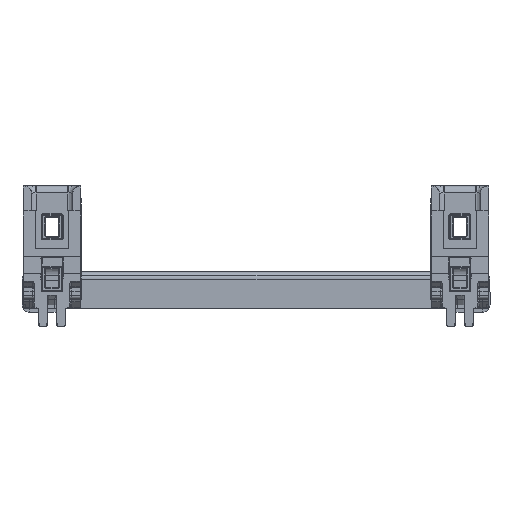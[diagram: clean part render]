
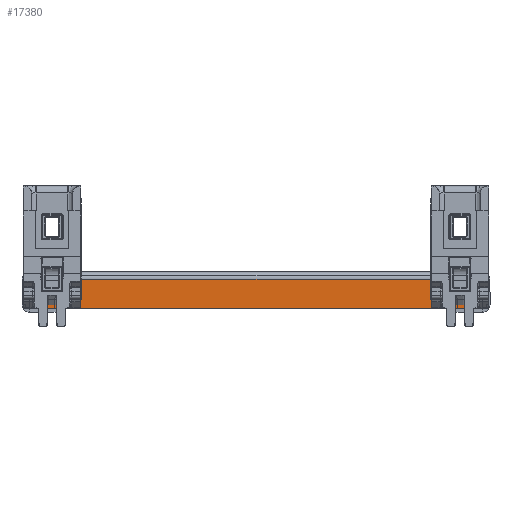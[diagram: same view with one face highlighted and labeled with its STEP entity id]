
A CAD part, front view. The second image highlights one B-rep face of the part: STEP entity #17380.
In plain terms, the highlighted planar face has unit normal (0, -1, 0) as drawn and (1, 0, 0) by its records, which use the part's own axes.
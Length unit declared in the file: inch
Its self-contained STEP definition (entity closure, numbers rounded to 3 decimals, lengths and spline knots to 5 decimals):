
#245 = LINE ( 'NONE', #16779, #14608 ) ;
#353 = CARTESIAN_POINT ( 'NONE',  ( 33.58649, 1.11, -0.11 ) ) ;
#374 = VERTEX_POINT ( 'NONE', #3196 ) ;
#569 = CARTESIAN_POINT ( 'NONE',  ( 33.58649, 1.11, -0.403 ) ) ;
#648 = LINE ( 'NONE', #4847, #11289 ) ;
#996 = EDGE_CURVE ( 'NONE', #2560, #16901, #245, .T. ) ;
#1608 = VECTOR ( 'NONE', #17340, 39.37008 ) ;
#1678 = CARTESIAN_POINT ( 'NONE',  ( 33.58649, 12.337, -0.403 ) ) ;
#2132 = EDGE_CURVE ( 'NONE', #13690, #5259, #14198, .T. ) ;
#2511 = EDGE_CURVE ( 'NONE', #16901, #4045, #8938, .T. ) ;
#2560 = VERTEX_POINT ( 'NONE', #4097 ) ;
#2573 = AXIS2_PLACEMENT_3D ( 'NONE', #12768, #4434, #14141 ) ;
#2636 = VECTOR ( 'NONE', #16859, 39.37008 ) ;
#2856 = CARTESIAN_POINT ( 'NONE',  ( 33.58649, 0.11, -0.11 ) ) ;
#2939 = DIRECTION ( 'NONE',  ( 0., 0., 1. ) ) ;
#3021 = PLANE ( 'NONE',  #2573 ) ;
#3112 = VECTOR ( 'NONE', #2939, 39.37008 ) ;
#3165 = LINE ( 'NONE', #5913, #14247 ) ;
#3185 = CARTESIAN_POINT ( 'NONE',  ( 33.58649, 0.11, -0.11 ) ) ;
#3196 = CARTESIAN_POINT ( 'NONE',  ( 33.58649, 0.11, -0.918 ) ) ;
#3437 = EDGE_LOOP ( 'NONE', ( #5875, #8396, #14004, #17934, #17036, #13273, #8595, #9218, #7632, #12484, #14868, #6658 ) ) ;
#4045 = VERTEX_POINT ( 'NONE', #17149 ) ;
#4097 = CARTESIAN_POINT ( 'NONE',  ( 33.58649, 0.39, -0.403 ) ) ;
#4362 = LINE ( 'NONE', #8316, #14136 ) ;
#4434 = DIRECTION ( 'NONE',  ( 1., 0., 0. ) ) ;
#4702 = CARTESIAN_POINT ( 'NONE',  ( 33.58649, 0.39, -0.11 ) ) ;
#4847 = CARTESIAN_POINT ( 'NONE',  ( 33.58649, 0.39, -0.403 ) ) ;
#4968 = CARTESIAN_POINT ( 'NONE',  ( 33.58649, 11.617, -0.403 ) ) ;
#5259 = VERTEX_POINT ( 'NONE', #353 ) ;
#5875 = ORIENTED_EDGE ( 'NONE', *, *, #12123, .T. ) ;
#5886 = LINE ( 'NONE', #11263, #16495 ) ;
#5913 = CARTESIAN_POINT ( 'NONE',  ( 33.58649, 0.11, -0.11 ) ) ;
#6433 = EDGE_CURVE ( 'NONE', #9119, #13455, #12907, .T. ) ;
#6516 = CARTESIAN_POINT ( 'NONE',  ( 33.58649, 12.617, -0.918 ) ) ;
#6552 = CARTESIAN_POINT ( 'NONE',  ( 33.58649, 0.11, 0. ) ) ;
#6658 = ORIENTED_EDGE ( 'NONE', *, *, #11204, .T. ) ;
#6996 = EDGE_CURVE ( 'NONE', #10995, #374, #13148, .T. ) ;
#7138 = CARTESIAN_POINT ( 'NONE',  ( 33.58649, 11.617, -0.403 ) ) ;
#7287 = CARTESIAN_POINT ( 'NONE',  ( 33.58649, 11.617, -0.11 ) ) ;
#7566 = CARTESIAN_POINT ( 'NONE',  ( 33.58649, 0.11, -0.918 ) ) ;
#7632 = ORIENTED_EDGE ( 'NONE', *, *, #7908, .F. ) ;
#7888 = DIRECTION ( 'NONE',  ( 0., 0., 1. ) ) ;
#7908 = EDGE_CURVE ( 'NONE', #14504, #9119, #16617, .T. ) ;
#8087 = DIRECTION ( 'NONE',  ( 0., -1., 0. ) ) ;
#8316 = CARTESIAN_POINT ( 'NONE',  ( 33.58649, 12.617, 0. ) ) ;
#8396 = ORIENTED_EDGE ( 'NONE', *, *, #996, .T. ) ;
#8595 = ORIENTED_EDGE ( 'NONE', *, *, #14821, .T. ) ;
#8938 = LINE ( 'NONE', #2856, #8967 ) ;
#8967 = VECTOR ( 'NONE', #14688, 39.37008 ) ;
#9119 = VERTEX_POINT ( 'NONE', #1678 ) ;
#9218 = ORIENTED_EDGE ( 'NONE', *, *, #6433, .F. ) ;
#9243 = VECTOR ( 'NONE', #14254, 39.37008 ) ;
#9346 = CARTESIAN_POINT ( 'NONE',  ( 33.58649, 12.617, -0.11 ) ) ;
#9385 = FACE_OUTER_BOUND ( 'NONE', #3437, .T. ) ;
#9481 = DIRECTION ( 'NONE',  ( 0., 0., 1. ) ) ;
#9733 = DIRECTION ( 'NONE',  ( 0., 0., 1. ) ) ;
#10421 = LINE ( 'NONE', #6552, #17357 ) ;
#10995 = VERTEX_POINT ( 'NONE', #6516 ) ;
#11136 = EDGE_CURVE ( 'NONE', #10995, #17162, #4362, .T. ) ;
#11204 = EDGE_CURVE ( 'NONE', #5259, #13255, #5886, .T. ) ;
#11263 = CARTESIAN_POINT ( 'NONE',  ( 33.58649, 1.11, -0.403 ) ) ;
#11289 = VECTOR ( 'NONE', #15936, 39.37008 ) ;
#12123 = EDGE_CURVE ( 'NONE', #13255, #2560, #648, .T. ) ;
#12428 = CARTESIAN_POINT ( 'NONE',  ( 33.58649, 12.337, -0.403 ) ) ;
#12484 = ORIENTED_EDGE ( 'NONE', *, *, #17889, .F. ) ;
#12600 = DIRECTION ( 'NONE',  ( 0., 0., -1. ) ) ;
#12768 = CARTESIAN_POINT ( 'NONE',  ( 33.58649, 0.11, 0. ) ) ;
#12907 = LINE ( 'NONE', #12428, #3112 ) ;
#13148 = LINE ( 'NONE', #7566, #15949 ) ;
#13255 = VERTEX_POINT ( 'NONE', #569 ) ;
#13273 = ORIENTED_EDGE ( 'NONE', *, *, #11136, .T. ) ;
#13444 = EDGE_CURVE ( 'NONE', #374, #4045, #10421, .T. ) ;
#13455 = VERTEX_POINT ( 'NONE', #16314 ) ;
#13690 = VERTEX_POINT ( 'NONE', #7287 ) ;
#13726 = LINE ( 'NONE', #7138, #2636 ) ;
#14004 = ORIENTED_EDGE ( 'NONE', *, *, #2511, .T. ) ;
#14136 = VECTOR ( 'NONE', #9733, 39.37008 ) ;
#14141 = DIRECTION ( 'NONE',  ( 0., 0., -1. ) ) ;
#14198 = LINE ( 'NONE', #3185, #1608 ) ;
#14247 = VECTOR ( 'NONE', #15599, 39.37008 ) ;
#14254 = DIRECTION ( 'NONE',  ( 0., 1., 0. ) ) ;
#14504 = VERTEX_POINT ( 'NONE', #4968 ) ;
#14608 = VECTOR ( 'NONE', #9481, 39.37008 ) ;
#14688 = DIRECTION ( 'NONE',  ( 0., -1., 0. ) ) ;
#14821 = EDGE_CURVE ( 'NONE', #17162, #13455, #3165, .T. ) ;
#14868 = ORIENTED_EDGE ( 'NONE', *, *, #2132, .T. ) ;
#15599 = DIRECTION ( 'NONE',  ( 0., -1., 0. ) ) ;
#15936 = DIRECTION ( 'NONE',  ( 0., -1., 0. ) ) ;
#15949 = VECTOR ( 'NONE', #8087, 39.37008 ) ;
#16314 = CARTESIAN_POINT ( 'NONE',  ( 33.58649, 12.337, -0.11 ) ) ;
#16495 = VECTOR ( 'NONE', #12600, 39.37008 ) ;
#16596 = CARTESIAN_POINT ( 'NONE',  ( 33.58649, 12.337, -0.403 ) ) ;
#16617 = LINE ( 'NONE', #16596, #9243 ) ;
#16779 = CARTESIAN_POINT ( 'NONE',  ( 33.58649, 0.39, -0.403 ) ) ;
#16859 = DIRECTION ( 'NONE',  ( 0., 0., -1. ) ) ;
#16901 = VERTEX_POINT ( 'NONE', #4702 ) ;
#17036 = ORIENTED_EDGE ( 'NONE', *, *, #6996, .F. ) ;
#17149 = CARTESIAN_POINT ( 'NONE',  ( 33.58649, 0.11, -0.11 ) ) ;
#17162 = VERTEX_POINT ( 'NONE', #9346 ) ;
#17340 = DIRECTION ( 'NONE',  ( 0., -1., 0. ) ) ;
#17357 = VECTOR ( 'NONE', #7888, 39.37008 ) ;
#17380 = ADVANCED_FACE ( 'NONE', ( #9385 ), #3021, .T. ) ;
#17889 = EDGE_CURVE ( 'NONE', #13690, #14504, #13726, .T. ) ;
#17934 = ORIENTED_EDGE ( 'NONE', *, *, #13444, .F. ) ;
